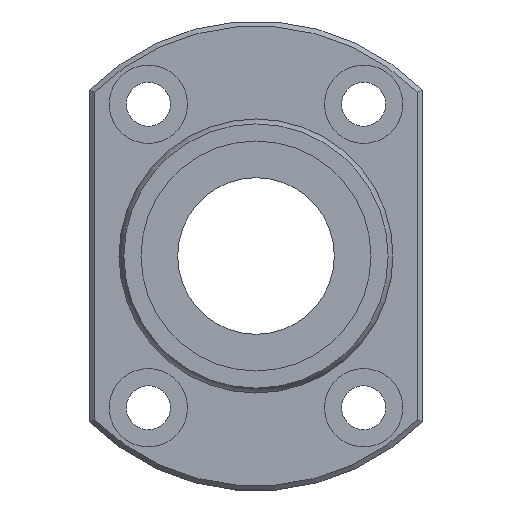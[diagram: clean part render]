
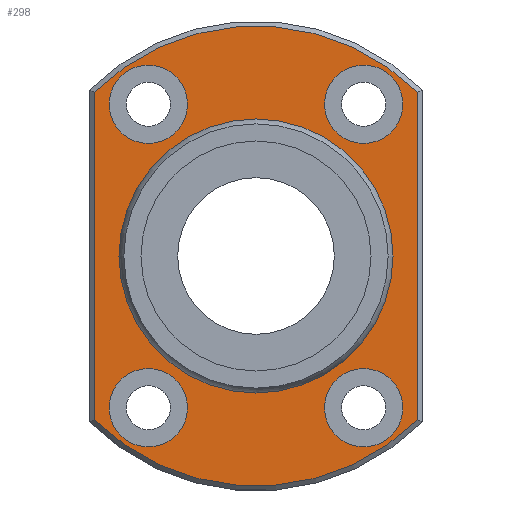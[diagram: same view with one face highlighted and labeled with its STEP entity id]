
A CAD part, left-side view. The second image highlights one B-rep face of the part: STEP entity #298.
In plain terms, the highlighted planar face has unit normal (-1, 0, 0).
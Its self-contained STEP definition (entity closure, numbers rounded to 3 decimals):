
#59=CARTESIAN_POINT('',(36.5,-16.5,16.733));
#60=VERTEX_POINT('',#59);
#68=CARTESIAN_POINT('',(36.5,-16.5,-16.733));
#69=VERTEX_POINT('',#68);
#70=CARTESIAN_POINT('',(36.5,-16.5,16.733));
#71=DIRECTION('',(0.0,0.0,-1.0));
#72=VECTOR('',#71,33.466);
#73=LINE('',#70,#72);
#74=EDGE_CURVE('',#60,#69,#73,.T.);
#101=CARTESIAN_POINT('',(36.5,16.5,-16.733));
#102=VERTEX_POINT('',#101);
#103=CARTESIAN_POINT('',(36.5,0.0,0.0));
#104=DIRECTION('',(1.0,0.0,0.0));
#105=DIRECTION('',(0.0,0.0,-1.0));
#106=AXIS2_PLACEMENT_3D('',#103,#104,#105);
#107=CIRCLE('',#106,23.5);
#108=EDGE_CURVE('',#69,#102,#107,.T.);
#134=CARTESIAN_POINT('',(36.5,16.5,16.733));
#135=VERTEX_POINT('',#134);
#136=CARTESIAN_POINT('',(36.5,16.5,-16.733));
#137=DIRECTION('',(0.0,0.0,1.0));
#138=VECTOR('',#137,33.466);
#139=LINE('',#136,#138);
#140=EDGE_CURVE('',#102,#135,#139,.T.);
#165=CARTESIAN_POINT('',(36.5,0.0,0.0));
#166=DIRECTION('',(1.0,0.0,0.0));
#167=DIRECTION('',(0.0,0.0,1.0));
#168=AXIS2_PLACEMENT_3D('',#165,#166,#167);
#169=CIRCLE('',#168,23.5);
#170=EDGE_CURVE('',#135,#60,#169,.T.);
#232=CARTESIAN_POINT('',(36.5,0.0,18.887));
#233=DIRECTION('',(-1.0,0.0,0.0));
#234=DIRECTION('',(0.0,0.0,1.0));
#235=AXIS2_PLACEMENT_3D('',#232,#233,#234);
#236=PLANE('',#235);
#237=ORIENTED_EDGE('',*,*,#74,.F.);
#238=ORIENTED_EDGE('',*,*,#170,.F.);
#239=ORIENTED_EDGE('',*,*,#140,.F.);
#240=ORIENTED_EDGE('',*,*,#108,.F.);
#241=EDGE_LOOP('',(#237,#238,#239,#240));
#242=FACE_OUTER_BOUND('',#241,.T.);
#243=CARTESIAN_POINT('',(36.5,0.0,13.773));
#244=VERTEX_POINT('',#243);
#245=CARTESIAN_POINT('',(36.5,0.0,0.0));
#246=DIRECTION('',(-1.0,0.0,0.0));
#247=DIRECTION('',(0.0,0.0,1.0));
#248=AXIS2_PLACEMENT_3D('',#245,#246,#247);
#249=CIRCLE('',#248,13.773);
#250=EDGE_CURVE('',#244,#244,#249,.T.);
#251=ORIENTED_EDGE('',*,*,#250,.F.);
#252=EDGE_LOOP('',(#251));
#253=FACE_BOUND('',#252,.T.);
#254=CARTESIAN_POINT('',(36.5,-7.,-15.5));
#255=VERTEX_POINT('',#254);
#256=CARTESIAN_POINT('',(36.5,-11.,-15.5));
#257=DIRECTION('',(1.0,0.0,0.0));
#258=DIRECTION('',(0.0,1.0,0.0));
#259=AXIS2_PLACEMENT_3D('',#256,#257,#258);
#260=CIRCLE('',#259,4.0);
#261=EDGE_CURVE('',#255,#255,#260,.T.);
#262=ORIENTED_EDGE('',*,*,#261,.T.);
#263=EDGE_LOOP('',(#262));
#264=FACE_BOUND('',#263,.T.);
#265=CARTESIAN_POINT('',(36.5,-7.,15.5));
#266=VERTEX_POINT('',#265);
#267=CARTESIAN_POINT('',(36.5,-11.,15.5));
#268=DIRECTION('',(1.0,0.0,0.0));
#269=DIRECTION('',(0.0,1.0,0.0));
#270=AXIS2_PLACEMENT_3D('',#267,#268,#269);
#271=CIRCLE('',#270,4.0);
#272=EDGE_CURVE('',#266,#266,#271,.T.);
#273=ORIENTED_EDGE('',*,*,#272,.T.);
#274=EDGE_LOOP('',(#273));
#275=FACE_BOUND('',#274,.T.);
#276=CARTESIAN_POINT('',(36.5,15.,-15.5));
#277=VERTEX_POINT('',#276);
#278=CARTESIAN_POINT('',(36.5,11.,-15.5));
#279=DIRECTION('',(1.0,0.0,0.0));
#280=DIRECTION('',(0.0,1.0,0.0));
#281=AXIS2_PLACEMENT_3D('',#278,#279,#280);
#282=CIRCLE('',#281,4.0);
#283=EDGE_CURVE('',#277,#277,#282,.T.);
#284=ORIENTED_EDGE('',*,*,#283,.T.);
#285=EDGE_LOOP('',(#284));
#286=FACE_BOUND('',#285,.T.);
#287=CARTESIAN_POINT('',(36.5,15.0,15.5));
#288=VERTEX_POINT('',#287);
#289=CARTESIAN_POINT('',(36.5,11.,15.5));
#290=DIRECTION('',(1.0,0.0,0.0));
#291=DIRECTION('',(0.0,1.0,0.0));
#292=AXIS2_PLACEMENT_3D('',#289,#290,#291);
#293=CIRCLE('',#292,4.0);
#294=EDGE_CURVE('',#288,#288,#293,.T.);
#295=ORIENTED_EDGE('',*,*,#294,.T.);
#296=EDGE_LOOP('',(#295));
#297=FACE_BOUND('',#296,.T.);
#298=ADVANCED_FACE('',(#242,#253,#264,#275,#286,#297),#236,.T.);
